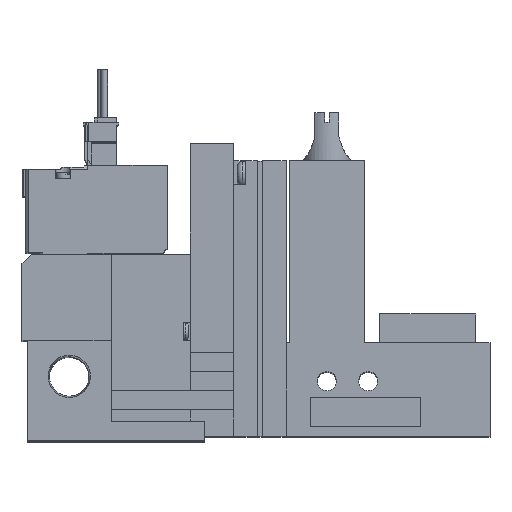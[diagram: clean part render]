
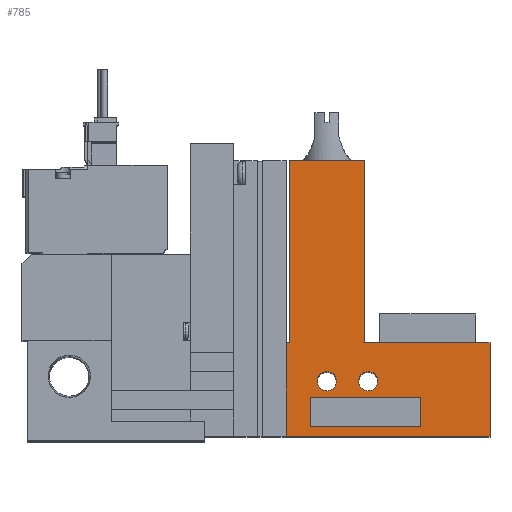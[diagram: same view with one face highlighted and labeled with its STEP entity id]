
A CAD part, top view. The second image highlights one B-rep face of the part: STEP entity #785.
In plain terms, the highlighted planar face has unit normal (0, 0, 1).
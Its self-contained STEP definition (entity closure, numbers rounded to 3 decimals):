
#785=ADVANCED_FACE('',(#1558,#1559,#1560,#1561),#1562,.T.);
#1558=FACE_BOUND('',#2731,.T.);
#1559=FACE_BOUND('',#2732,.T.);
#1560=FACE_BOUND('',#2733,.T.);
#1561=FACE_OUTER_BOUND('',#2734,.T.);
#1562=PLANE('',#2735);
#2731=EDGE_LOOP('',(#5428,#5429,#5430,#5431));
#2732=EDGE_LOOP('',(#5432));
#2733=EDGE_LOOP('',(#5433));
#2734=EDGE_LOOP('',(#5434,#5435,#5436,#5437,#5438,#5439,#5440,#5441));
#2735=AXIS2_PLACEMENT_3D('',#5442,#5443,#5444);
#5428=ORIENTED_EDGE('',*,*,#7988,.T.);
#5429=ORIENTED_EDGE('',*,*,#7989,.T.);
#5430=ORIENTED_EDGE('',*,*,#7990,.T.);
#5431=ORIENTED_EDGE('',*,*,#7991,.T.);
#5432=ORIENTED_EDGE('',*,*,#7987,.T.);
#5433=ORIENTED_EDGE('',*,*,#7992,.T.);
#5434=ORIENTED_EDGE('',*,*,#7993,.F.);
#5435=ORIENTED_EDGE('',*,*,#7994,.T.);
#5436=ORIENTED_EDGE('',*,*,#7995,.T.);
#5437=ORIENTED_EDGE('',*,*,#7996,.T.);
#5438=ORIENTED_EDGE('',*,*,#7997,.T.);
#5439=ORIENTED_EDGE('',*,*,#7998,.T.);
#5440=ORIENTED_EDGE('',*,*,#7999,.T.);
#5441=ORIENTED_EDGE('',*,*,#8000,.T.);
#5442=CARTESIAN_POINT('',(0.0,0.0,10.0));
#5443=DIRECTION('',(0.0,0.0,1.0));
#5444=DIRECTION('',(1.0,0.0,0.0));
#7987=EDGE_CURVE('',#9646,#9646,#9647,.T.);
#7988=EDGE_CURVE('',#9648,#9649,#9650,.T.);
#7989=EDGE_CURVE('',#9649,#9651,#9652,.T.);
#7990=EDGE_CURVE('',#9651,#9653,#9654,.T.);
#7991=EDGE_CURVE('',#9653,#9648,#9655,.T.);
#7992=EDGE_CURVE('',#9656,#9656,#9657,.T.);
#7993=EDGE_CURVE('',#9658,#9659,#9660,.T.);
#7994=EDGE_CURVE('',#9658,#9661,#9662,.T.);
#7995=EDGE_CURVE('',#9661,#9663,#9664,.T.);
#7996=EDGE_CURVE('',#9663,#9665,#9666,.T.);
#7997=EDGE_CURVE('',#9665,#9667,#9668,.T.);
#7998=EDGE_CURVE('',#9667,#9669,#9670,.T.);
#7999=EDGE_CURVE('',#9669,#9671,#9672,.T.);
#8000=EDGE_CURVE('',#9671,#9659,#9673,.T.);
#9646=VERTEX_POINT('',#12341);
#9647=CIRCLE('',#12342,2.0);
#9648=VERTEX_POINT('',#12343);
#9649=VERTEX_POINT('',#12344);
#9650=LINE('',#12345,#12346);
#9651=VERTEX_POINT('',#12347);
#9652=LINE('',#12348,#12349);
#9653=VERTEX_POINT('',#12350);
#9654=LINE('',#12351,#12352);
#9655=LINE('',#12353,#12354);
#9656=VERTEX_POINT('',#12355);
#9657=CIRCLE('',#12356,2.0);
#9658=VERTEX_POINT('',#12357);
#9659=VERTEX_POINT('',#12358);
#9660=LINE('',#12359,#12360);
#9661=VERTEX_POINT('',#12361);
#9662=LINE('',#12362,#12363);
#9663=VERTEX_POINT('',#12364);
#9664=LINE('',#12365,#12366);
#9665=VERTEX_POINT('',#12367);
#9666=LINE('',#12368,#12369);
#9667=VERTEX_POINT('',#12370);
#9668=LINE('',#12371,#12372);
#9669=VERTEX_POINT('',#12373);
#9670=LINE('',#12374,#12375);
#9671=VERTEX_POINT('',#12376);
#9672=LINE('',#12377,#12378);
#9673=LINE('',#12379,#12380);
#12341=CARTESIAN_POINT('',(65.6,11.5,10.0));
#12342=AXIS2_PLACEMENT_3D('',#14852,#14853,#14854);
#12343=CARTESIAN_POINT('',(60.1,2.0,10.0));
#12344=CARTESIAN_POINT('',(60.1,8.0,10.0));
#12345=CARTESIAN_POINT('',(60.1,0.0,10.0));
#12346=VECTOR('',#14855,1.0);
#12347=CARTESIAN_POINT('',(83.1,8.0,10.0));
#12348=CARTESIAN_POINT('',(0.0,8.0,10.0));
#12349=VECTOR('',#14856,1.0);
#12350=CARTESIAN_POINT('',(83.1,2.0,10.0));
#12351=CARTESIAN_POINT('',(83.1,0.0,10.0));
#12352=VECTOR('',#14857,1.0);
#12353=CARTESIAN_POINT('',(0.0,2.0,10.0));
#12354=VECTOR('',#14858,1.0);
#12355=CARTESIAN_POINT('',(74.2,11.5,10.0));
#12356=AXIS2_PLACEMENT_3D('',#14859,#14860,#14861);
#12357=CARTESIAN_POINT('',(55.1,0.0,10.0));
#12358=CARTESIAN_POINT('',(55.1,19.5,10.0));
#12359=CARTESIAN_POINT('',(55.1,0.0,10.0));
#12360=VECTOR('',#14862,1.0);
#12361=CARTESIAN_POINT('',(97.6,0.0,10.0));
#12362=CARTESIAN_POINT('',(18.6,0.0,10.0));
#12363=VECTOR('',#14863,1.0);
#12364=CARTESIAN_POINT('',(97.6,19.5,10.0));
#12365=CARTESIAN_POINT('',(97.6,0.0,10.0));
#12366=VECTOR('',#14864,1.0);
#12367=CARTESIAN_POINT('',(71.45,19.5,10.0));
#12368=CARTESIAN_POINT('',(97.6,19.5,10.0));
#12369=VECTOR('',#14865,1.0);
#12370=CARTESIAN_POINT('',(71.45,57.5,10.0));
#12371=CARTESIAN_POINT('',(71.45,19.5,10.0));
#12372=VECTOR('',#14866,1.0);
#12373=CARTESIAN_POINT('',(55.75,57.5,10.0));
#12374=CARTESIAN_POINT('',(71.45,57.5,10.0));
#12375=VECTOR('',#14867,1.0);
#12376=CARTESIAN_POINT('',(55.75,19.5,10.0));
#12377=CARTESIAN_POINT('',(55.75,57.5,10.0));
#12378=VECTOR('',#14868,1.0);
#12379=CARTESIAN_POINT('',(55.75,19.5,10.0));
#12380=VECTOR('',#14869,1.0);
#14852=CARTESIAN_POINT('',(63.6,11.5,10.0));
#14853=DIRECTION('',(0.0,0.0,-1.0));
#14854=DIRECTION('',(1.0,0.0,0.0));
#14855=DIRECTION('',(0.0,1.0,0.0));
#14856=DIRECTION('',(1.0,0.0,0.0));
#14857=DIRECTION('',(0.0,-1.0,0.0));
#14858=DIRECTION('',(-1.0,0.0,0.0));
#14859=CARTESIAN_POINT('',(72.2,11.5,10.0));
#14860=DIRECTION('',(0.0,0.0,-1.0));
#14861=DIRECTION('',(1.0,0.0,0.0));
#14862=DIRECTION('',(0.0,1.0,0.0));
#14863=DIRECTION('',(1.0,0.0,0.0));
#14864=DIRECTION('',(0.0,1.0,0.0));
#14865=DIRECTION('',(-1.0,0.0,0.0));
#14866=DIRECTION('',(0.0,1.0,0.0));
#14867=DIRECTION('',(-1.0,0.0,0.0));
#14868=DIRECTION('',(0.0,-1.0,0.0));
#14869=DIRECTION('',(-1.0,0.0,0.0));
